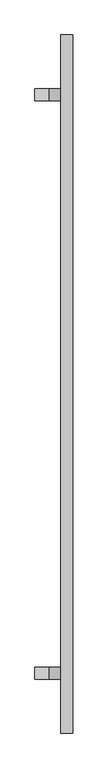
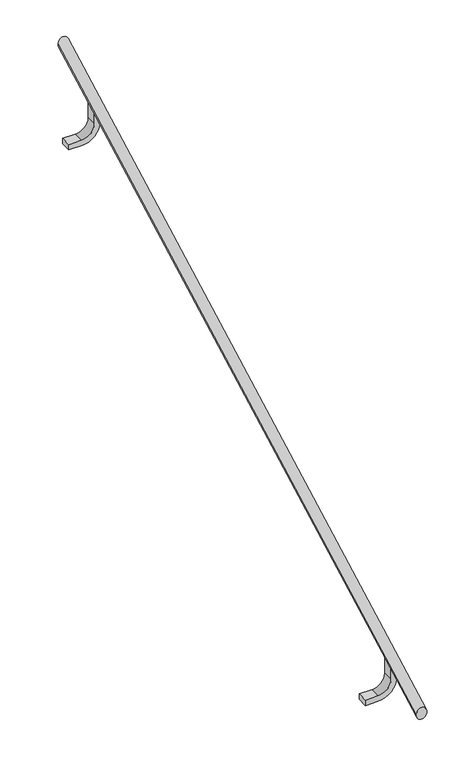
"""IFC4 building model written with IfcOpenShell, lengths in millimetres: railing geometry, Fixé au mur."""

from ifc_helpers import new_model, si_unit, point, frame, frame_2d, origin, place, context, project, spatial, polyline, circle_curve, ellipse_curve, trimmed, segment, composite_curve, outline, extrude, source, transform, mapped, element, save
from ifc_brep_helpers import plane_surface, cylinder_surface, advanced_brep


def railing_3c3928af(model_context):
    return source(origin(), model_context, "Body", "SolidModel", [
        advanced_brep(
        [(25489.5315589, 1873.3256655, 871032.9831641), (25459.5315589, 1873.3256655, 871032.9831641), (25489.5315589, 3617.4099115, 871967.3140102), (25459.5315589, 3617.4099115, 871967.3140102)],
        [
            (0, 1, ellipse_curve(frame((25474.5315589, 1873.3256655, 871032.9831641), z_axis=(0.0, -1.0, 0.0), x_axis=(0.0, 0.0, -1.0)), 17.0168359, 15.0)),
            (1, 0, ellipse_curve(frame((25474.5315589, 1873.3256655, 871032.9831641), z_axis=(0.0, -1.0, 0.0), x_axis=(0.0, 0.0, -1.0)), 17.0168359, 15.0)),
            (2, 3, ellipse_curve(frame((25474.5315589, 3617.4099115, 871967.3140102), z_axis=(0.0, 1.0, 0.0), x_axis=(0.0, 0.0, -1.0)), 17.0168359, 15.0)),
            (3, 2, ellipse_curve(frame((25474.5315589, 3617.4099115, 871967.3140102), z_axis=(0.0, 1.0, 0.0), x_axis=(0.0, 0.0, -1.0)), 17.0168359, 15.0)),
            (1, 3),
            (2, 0),
        ],
        [
            plane_surface(frame((25474.5315589, 1873.3256655, 871050.0), z_axis=(0.0, -1.0, 0.0), x_axis=(0.0, 0.0, 1.0))),
            plane_surface(frame((25474.5315589, 3617.4099115, 871984.3308461), z_axis=(0.0, 1.0, 0.0), x_axis=(0.0, 0.0, 1.0))),
            cylinder_surface(frame((25474.5315589, 1880.4089867, 871036.7778004), z_axis=(0.0, -0.8814799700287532, -0.4722214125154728), x_axis=(-1.0, 0.0, 0.0)), 15.0),
        ],
        [
            (0, [[1, 2]]),
            (1, [[3, 4]]),
            (2, [[-2, 5, -3, 6]]),
            (2, [[-1, -6, -4, -5]]),
        ],
    ),
        extrude(outline(composite_curve([segment(polyline([(871775.9737032, 25394.5315589), (871775.9737032, 25429.5315589)]), True, "CONTINUOUS"), segment(trimmed(circle_curve(frame_2d((871828.9737032, 25429.5315589)), 53.0), [point((871775.9737032, 25429.5315589))], [point((871828.9737032, 25482.5315589))], False, "CARTESIAN"), True, "CONTINUOUS"), segment(polyline([(871828.9737032, 25482.5315589), (871883.9737032, 25482.5315589), (871883.9737032, 25466.5315589), (871828.9737032, 25466.5315589)]), True, "CONTINUOUS"), segment(trimmed(circle_curve(frame_2d((871828.9737032, 25429.5315589)), 37.0), [point((871828.9737032, 25466.5315589))], [point((871791.9737032, 25429.5315589))], True, "CARTESIAN"), True, "CONTINUOUS"), segment(polyline([(871791.9737032, 25429.5315589), (871791.9737032, 25394.5315589), (871775.9737032, 25394.5315589)]), True, "CONTINUOUS")], self_intersect=False)), frame((0.0, 3452.4099115, 0.0), z_axis=(0.0, 1.0, 0.0), x_axis=(0.0, 0.0, 1.0)), (0.0, 0.0, 1.0), 30.0),
        extrude(outline(composite_curve([segment(polyline([(871002.3571429, 25394.5315589), (871002.3571429, 25429.5315589)]), True, "CONTINUOUS"), segment(trimmed(circle_curve(frame_2d((871055.3571429, 25429.5315589)), 53.0), [point((871002.3571429, 25429.5315589))], [point((871055.3571429, 25482.5315589))], False, "CARTESIAN"), True, "CONTINUOUS"), segment(polyline([(871055.3571429, 25482.5315589), (871110.3571429, 25482.5315589), (871110.3571429, 25466.5315589), (871055.3571429, 25466.5315589)]), True, "CONTINUOUS"), segment(trimmed(circle_curve(frame_2d((871055.3571429, 25429.5315589)), 37.0), [point((871055.3571429, 25466.5315589))], [point((871018.3571429, 25429.5315589))], True, "CARTESIAN"), True, "CONTINUOUS"), segment(polyline([(871018.3571429, 25429.5315589), (871018.3571429, 25394.5315589), (871002.3571429, 25394.5315589)]), True, "CONTINUOUS")], self_intersect=False)), frame((0.0, 2008.3256655, 0.0), z_axis=(0.0, 1.0, 0.0), x_axis=(0.0, 0.0, 1.0)), (0.0, 0.0, 1.0), 30.0),
    ])


if __name__ == "__main__":
    model = new_model("IFC4")
    model_context = context("Model", 3, world=origin())
    ifc_project = project(units=[si_unit("LENGTHUNIT", "METRE", prefix="MILLI")], contexts=[model_context])
    site = spatial("IfcSite", under=ifc_project)
    building = spatial("IfcBuilding", under=site)
    placement = place(None, origin())
    railing_shape = railing_3c3928af(model_context)
    element("IfcRailing", 1, ObjectType="Fixé au mur", at=placement, inside=building, context=model_context, shape_type="MappedRepresentation", body=[
        mapped(railing_shape, transform((0.0, 0.0, 0.0), x_axis=(1.0, 0.0, 0.0), y_axis=(0.0, 1.0, 0.0), z_axis=(0.0, 0.0, 1.0))),
    ])
    save(model, "model.ifc")
